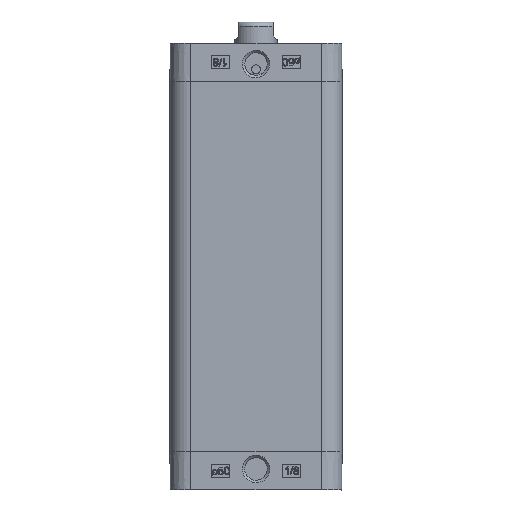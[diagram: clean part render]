
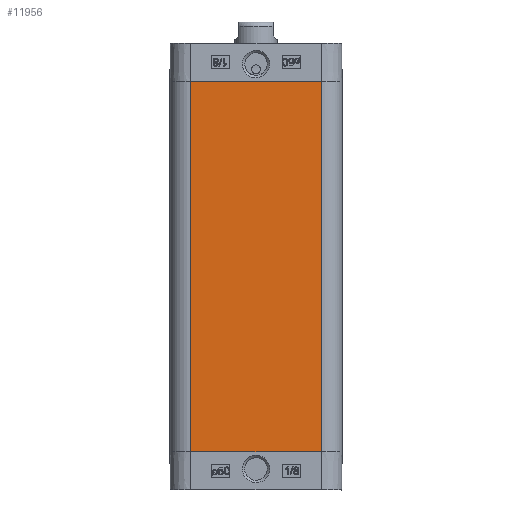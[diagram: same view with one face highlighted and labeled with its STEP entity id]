
A CAD part, left-side view. The second image highlights one B-rep face of the part: STEP entity #11956.
In plain terms, the highlighted planar face has unit normal (-1, 0, 0).
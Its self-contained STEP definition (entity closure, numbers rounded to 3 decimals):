
#1225=ORIENTED_EDGE('',*,*,#4772,.T.);
#1226=ORIENTED_EDGE('',*,*,#4771,.F.);
#1227=ORIENTED_EDGE('',*,*,#4773,.T.);
#1228=ORIENTED_EDGE('',*,*,#4774,.T.);
#4771=EDGE_CURVE('',#6544,#6543,#7759,.T.);
#4772=EDGE_CURVE('',#6545,#6543,#7760,.T.);
#4773=EDGE_CURVE('',#6544,#6546,#7761,.T.);
#4774=EDGE_CURVE('',#6546,#6545,#7762,.T.);
#6543=VERTEX_POINT('',#21604);
#6544=VERTEX_POINT('',#21606);
#6545=VERTEX_POINT('',#21610);
#6546=VERTEX_POINT('',#21612);
#7759=LINE('',#21607,#8775);
#7760=LINE('',#21609,#8776);
#7761=LINE('',#21611,#8777);
#7762=LINE('',#21613,#8778);
#8775=VECTOR('',#18331,1000.);
#8776=VECTOR('',#18334,1000.);
#8777=VECTOR('',#18335,1000.);
#8778=VECTOR('',#18336,1000.);
#9784=EDGE_LOOP('',(#1225,#1226,#1227,#1228));
#10702=FACE_BOUND('',#9784,.T.);
#11617=PLANE('',#17180);
#11956=ADVANCED_FACE('',(#10702),#11617,.T.);
#17180=AXIS2_PLACEMENT_3D('',#21608,#18332,#18333);
#18331=DIRECTION('',(0.,0.,1.));
#18332=DIRECTION('',(-1.,0.,0.));
#18333=DIRECTION('',(0.,0.,1.));
#18334=DIRECTION('',(0.,1.,0.));
#18335=DIRECTION('',(0.,-1.,0.));
#18336=DIRECTION('',(0.,0.,1.));
#21604=CARTESIAN_POINT('',(-32.75,24.75,141.));
#21606=CARTESIAN_POINT('',(-32.75,24.75,0.));
#21607=CARTESIAN_POINT('',(-32.75,24.75,0.));
#21608=CARTESIAN_POINT('',(-32.75,-24.75,0.));
#21609=CARTESIAN_POINT('',(-32.75,-24.75,141.));
#21610=CARTESIAN_POINT('',(-32.75,-24.75,141.));
#21611=CARTESIAN_POINT('',(-32.75,24.75,0.));
#21612=CARTESIAN_POINT('',(-32.75,-24.75,0.));
#21613=CARTESIAN_POINT('',(-32.75,-24.75,0.));
